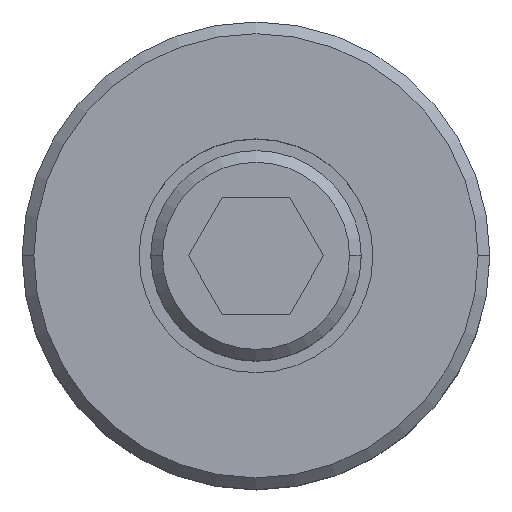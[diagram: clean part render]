
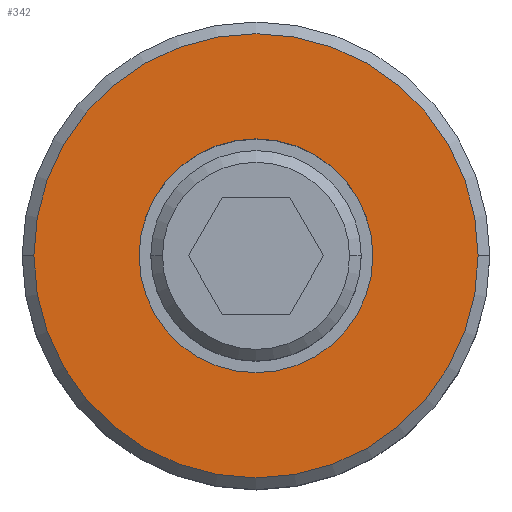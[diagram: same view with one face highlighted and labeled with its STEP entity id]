
A CAD part, top view. The second image highlights one B-rep face of the part: STEP entity #342.
In plain terms, the highlighted planar face has unit normal (0, 0, 1).
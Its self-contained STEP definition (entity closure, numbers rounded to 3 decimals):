
#101=VERTEX_POINT(' ',#102);
#102=CARTESIAN_POINT('',(-10.,0.,20.));
#103=VERTEX_POINT(' ',#104);
#104=CARTESIAN_POINT('',(10.,0.,20.));
#105=VERTEX_POINT(' ',#106);
#106=CARTESIAN_POINT('',(-19.,0.,20.));
#107=VERTEX_POINT(' ',#108);
#108=CARTESIAN_POINT('',(19.,0.,20.));
#172=CIRCLE('',#173,10.);
#173=AXIS2_PLACEMENT_3D('',#174,#175,#176);
#174=CARTESIAN_POINT('',(0.,0.,20.));
#175=DIRECTION('',(0.,0.,-1.));
#176=DIRECTION('',(0.,1.,0.));
#177=EDGE_CURVE(' ',#103,#101,#172,.T.);
#183=CIRCLE('',#184,10.);
#184=AXIS2_PLACEMENT_3D('',#185,#186,#187);
#185=CARTESIAN_POINT('',(0.,0.,20.));
#186=DIRECTION('',(0.,0.,-1.));
#187=DIRECTION('',(0.,-1.,0.));
#188=EDGE_CURVE(' ',#101,#103,#183,.T.);
#189=CIRCLE('',#190,19.);
#190=AXIS2_PLACEMENT_3D('',#191,#192,#193);
#191=CARTESIAN_POINT('',(0.,0.,20.));
#192=DIRECTION('',(0.,0.,-1.));
#193=DIRECTION('',(0.,1.,0.));
#194=EDGE_CURVE(' ',#107,#105,#189,.T.);
#195=CIRCLE('',#196,19.);
#196=AXIS2_PLACEMENT_3D('',#197,#198,#199);
#197=CARTESIAN_POINT('',(0.,0.,20.));
#198=DIRECTION('',(0.,0.,-1.));
#199=DIRECTION('',(0.,-1.,0.));
#200=EDGE_CURVE(' ',#105,#107,#195,.T.);
#329=ORIENTED_EDGE('',*,*,#194,.F.);
#330=ORIENTED_EDGE('',*,*,#200,.F.);
#331=EDGE_LOOP('',(#329,#330));
#332=FACE_OUTER_BOUND('',#331,.T.);
#333=ORIENTED_EDGE('',*,*,#188,.T.);
#334=ORIENTED_EDGE('',*,*,#177,.T.);
#335=EDGE_LOOP('',(#333,#334));
#336=FACE_BOUND('',#335,.T.);
#337=PLANE('',#338);
#338=AXIS2_PLACEMENT_3D('',#339,#340,#341);
#339=CARTESIAN_POINT('',(0.,0.,20.));
#340=DIRECTION('',(0.,0.,1.));
#341=DIRECTION('',(0.,1.,0.));
#342=ADVANCED_FACE('',(#332,#336),#337,.T.);
